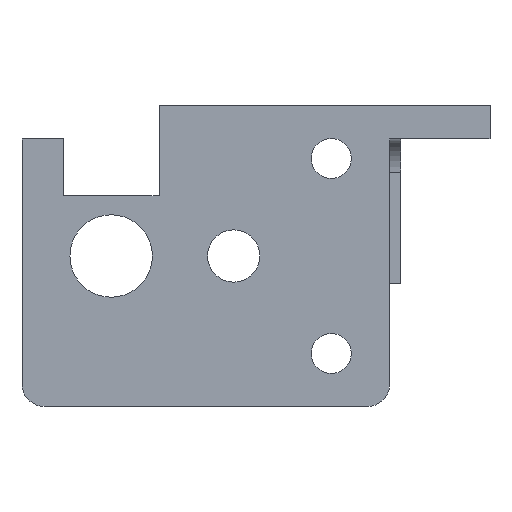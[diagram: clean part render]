
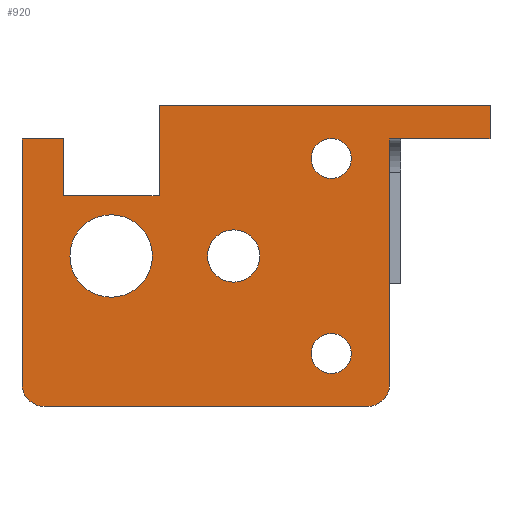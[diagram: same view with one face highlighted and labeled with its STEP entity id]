
A CAD part, front view. The second image highlights one B-rep face of the part: STEP entity #920.
In plain terms, the highlighted planar face has unit normal (0, -1, 0).
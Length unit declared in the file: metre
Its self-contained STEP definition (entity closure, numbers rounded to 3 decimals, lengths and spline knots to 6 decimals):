
#54=CIRCLE('',#998,0.002);
#55=CIRCLE('',#999,0.002);
#56=CIRCLE('',#1000,0.0018);
#57=CIRCLE('',#1001,0.0037);
#58=CIRCLE('',#1002,0.00235);
#59=CIRCLE('',#1003,0.0018);
#154=ORIENTED_EDGE('',*,*,#404,.T.);
#155=ORIENTED_EDGE('',*,*,#398,.T.);
#156=ORIENTED_EDGE('',*,*,#358,.T.);
#157=ORIENTED_EDGE('',*,*,#405,.T.);
#158=ORIENTED_EDGE('',*,*,#406,.T.);
#159=ORIENTED_EDGE('',*,*,#407,.T.);
#160=ORIENTED_EDGE('',*,*,#408,.F.);
#161=ORIENTED_EDGE('',*,*,#409,.F.);
#162=ORIENTED_EDGE('',*,*,#410,.F.);
#163=ORIENTED_EDGE('',*,*,#411,.F.);
#164=ORIENTED_EDGE('',*,*,#412,.F.);
#165=ORIENTED_EDGE('',*,*,#413,.T.);
#166=ORIENTED_EDGE('',*,*,#414,.T.);
#167=ORIENTED_EDGE('',*,*,#415,.T.);
#168=ORIENTED_EDGE('',*,*,#416,.T.);
#169=ORIENTED_EDGE('',*,*,#417,.T.);
#358=EDGE_CURVE('',#494,#493,#580,.T.);
#398=EDGE_CURVE('',#523,#494,#605,.F.);
#404=EDGE_CURVE('',#527,#523,#54,.F.);
#405=EDGE_CURVE('',#493,#528,#609,.F.);
#406=EDGE_CURVE('',#528,#529,#610,.F.);
#407=EDGE_CURVE('',#529,#530,#611,.T.);
#408=EDGE_CURVE('',#531,#530,#612,.T.);
#409=EDGE_CURVE('',#532,#531,#613,.T.);
#410=EDGE_CURVE('',#533,#532,#614,.T.);
#411=EDGE_CURVE('',#534,#533,#615,.F.);
#412=EDGE_CURVE('',#535,#534,#55,.F.);
#413=EDGE_CURVE('',#535,#527,#616,.T.);
#414=EDGE_CURVE('',#536,#536,#56,.T.);
#415=EDGE_CURVE('',#537,#537,#57,.T.);
#416=EDGE_CURVE('',#538,#538,#58,.T.);
#417=EDGE_CURVE('',#539,#539,#59,.T.);
#493=VERTEX_POINT('',#1347);
#494=VERTEX_POINT('',#1349);
#523=VERTEX_POINT('',#1439);
#527=VERTEX_POINT('',#1451);
#528=VERTEX_POINT('',#1453);
#529=VERTEX_POINT('',#1455);
#530=VERTEX_POINT('',#1457);
#531=VERTEX_POINT('',#1459);
#532=VERTEX_POINT('',#1461);
#533=VERTEX_POINT('',#1463);
#534=VERTEX_POINT('',#1465);
#535=VERTEX_POINT('',#1467);
#536=VERTEX_POINT('',#1470);
#537=VERTEX_POINT('',#1472);
#538=VERTEX_POINT('',#1474);
#539=VERTEX_POINT('',#1476);
#580=LINE('',#1348,#671);
#605=LINE('',#1438,#696);
#609=LINE('',#1452,#700);
#610=LINE('',#1454,#701);
#611=LINE('',#1456,#702);
#612=LINE('',#1458,#703);
#613=LINE('',#1460,#704);
#614=LINE('',#1462,#705);
#615=LINE('',#1464,#706);
#616=LINE('',#1468,#707);
#671=VECTOR('',#1073,1.);
#696=VECTOR('',#1142,1.);
#700=VECTOR('',#1156,1.);
#701=VECTOR('',#1157,1.);
#702=VECTOR('',#1158,1.);
#703=VECTOR('',#1159,1.);
#704=VECTOR('',#1160,1.);
#705=VECTOR('',#1161,1.);
#706=VECTOR('',#1162,1.);
#707=VECTOR('',#1165,1.);
#769=EDGE_LOOP('',(#154,#155,#156,#157,#158,#159,#160,#161,#162,#163,#164,
#165));
#770=EDGE_LOOP('',(#166));
#771=EDGE_LOOP('',(#167));
#772=EDGE_LOOP('',(#168));
#773=EDGE_LOOP('',(#169));
#833=FACE_BOUND('',#769,.T.);
#834=FACE_BOUND('',#770,.T.);
#835=FACE_BOUND('',#771,.T.);
#836=FACE_BOUND('',#772,.T.);
#837=FACE_BOUND('',#773,.T.);
#888=PLANE('',#997);
#920=ADVANCED_FACE('',(#833,#834,#835,#836,#837),#888,.F.);
#997=AXIS2_PLACEMENT_3D('',#1449,#1152,#1153);
#998=AXIS2_PLACEMENT_3D('',#1450,#1154,#1155);
#999=AXIS2_PLACEMENT_3D('',#1466,#1163,#1164);
#1000=AXIS2_PLACEMENT_3D('',#1469,#1166,#1167);
#1001=AXIS2_PLACEMENT_3D('',#1471,#1168,#1169);
#1002=AXIS2_PLACEMENT_3D('',#1473,#1170,#1171);
#1003=AXIS2_PLACEMENT_3D('',#1475,#1172,#1173);
#1073=DIRECTION('',(1.,0.,0.));
#1142=DIRECTION('',(0.,0.,-1.));
#1152=DIRECTION('',(0.,1.,0.));
#1153=DIRECTION('',(1.,0.,0.));
#1154=DIRECTION('',(0.,1.,0.));
#1155=DIRECTION('',(0.,0.,1.));
#1156=DIRECTION('',(0.,0.,-1.));
#1157=DIRECTION('',(1.,0.,0.));
#1158=DIRECTION('',(0.,0.,-1.));
#1159=DIRECTION('',(1.,0.,0.));
#1160=DIRECTION('',(0.,0.,-1.));
#1161=DIRECTION('',(1.,0.,0.));
#1162=DIRECTION('',(0.,0.,-1.));
#1163=DIRECTION('',(0.,-1.,0.));
#1164=DIRECTION('',(0.,0.,-1.));
#1165=DIRECTION('',(1.,0.,0.));
#1166=DIRECTION('',(0.,1.,0.));
#1167=DIRECTION('',(0.,0.,1.));
#1168=DIRECTION('',(0.,1.,0.));
#1169=DIRECTION('',(0.,0.,1.));
#1170=DIRECTION('',(0.,1.,0.));
#1171=DIRECTION('',(0.,0.,1.));
#1172=DIRECTION('',(0.,1.,0.));
#1173=DIRECTION('',(0.,0.,1.));
#1347=CARTESIAN_POINT('',(0.099,-0.0812,0.043));
#1348=CARTESIAN_POINT('',(0.057,-0.0812,0.043));
#1349=CARTESIAN_POINT('',(0.09,-0.0812,0.043));
#1438=CARTESIAN_POINT('',(0.09,-0.0812,0.019));
#1439=CARTESIAN_POINT('',(0.09,-0.0812,0.021));
#1449=CARTESIAN_POINT('',(0.057,-0.0812,0.019));
#1450=CARTESIAN_POINT('',(0.088,-0.0812,0.021));
#1451=CARTESIAN_POINT('',(0.088,-0.0812,0.019));
#1452=CARTESIAN_POINT('',(0.099,-0.0812,0.019));
#1453=CARTESIAN_POINT('',(0.099,-0.0812,0.046));
#1454=CARTESIAN_POINT('',(0.057,-0.0812,0.046));
#1455=CARTESIAN_POINT('',(0.0693,-0.0812,0.046));
#1456=CARTESIAN_POINT('',(0.0693,-0.0812,0.019));
#1457=CARTESIAN_POINT('',(0.0693,-0.0812,0.0379));
#1458=CARTESIAN_POINT('',(0.065,-0.0812,0.0379));
#1459=CARTESIAN_POINT('',(0.0607,-0.0812,0.0379));
#1460=CARTESIAN_POINT('',(0.0607,-0.0812,0.0379));
#1461=CARTESIAN_POINT('',(0.0607,-0.0812,0.043));
#1462=CARTESIAN_POINT('',(0.0735,-0.0812,0.043));
#1463=CARTESIAN_POINT('',(0.057,-0.0812,0.043));
#1464=CARTESIAN_POINT('',(0.057,-0.0812,0.019));
#1465=CARTESIAN_POINT('',(0.057,-0.0812,0.021));
#1466=CARTESIAN_POINT('',(0.059,-0.0812,0.021));
#1467=CARTESIAN_POINT('',(0.059,-0.0812,0.019));
#1468=CARTESIAN_POINT('',(0.057,-0.0812,0.019));
#1469=CARTESIAN_POINT('',(0.08475,-0.0812,0.04125));
#1470=CARTESIAN_POINT('',(0.08475,-0.0812,0.04305));
#1471=CARTESIAN_POINT('',(0.065,-0.0812,0.0325));
#1472=CARTESIAN_POINT('',(0.065,-0.0812,0.0362));
#1473=CARTESIAN_POINT('',(0.076,-0.0812,0.0325));
#1474=CARTESIAN_POINT('',(0.076,-0.0812,0.03485));
#1475=CARTESIAN_POINT('',(0.08475,-0.0812,0.02375));
#1476=CARTESIAN_POINT('',(0.08475,-0.0812,0.02555));
